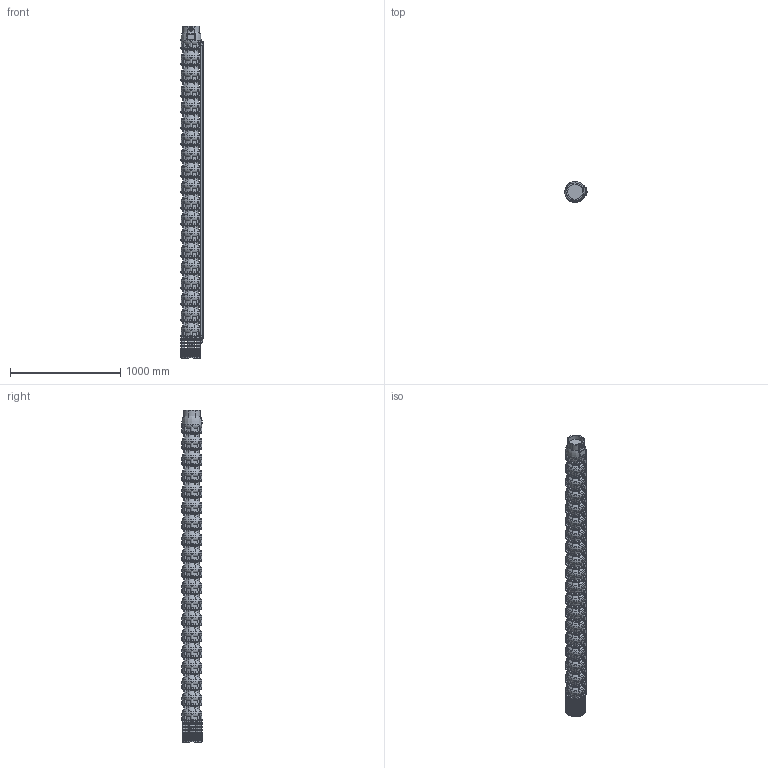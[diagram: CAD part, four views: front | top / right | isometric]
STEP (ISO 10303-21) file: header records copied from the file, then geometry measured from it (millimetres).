
FILE_DESCRIPTION(/* description */ ('Unknown'),/* implementation_level */ '2;1');
FILE_NAME(/* name */ 'VSI134-18_WR_M8-50_DLE',/* time_stamp */ '2023-09-14T14:42:11+02:00',/* author */ ('Unknown'),/* organization */ ('Unknown'),/* preprocessor_version */ 'ST-DEVELOPER v18.102',/* originating_system */ 'Solid Edge',/* authorisation */ 'Unknown');
FILE_SCHEMA (('AUTOMOTIVE_DESIGN {1 0 10303 214 3 1 1}'));
Products named in the file (11): VSI134-18_WR_M8-50_DLE; VSI134_testata; VSI134_diffusore; VSI134_supporto_8×8; VSI134_filtro_A; VSI134_filtro_B; VSI134_terminale_top_copricavo_basso; VSI134_terminale_bottom_copricavo_basso; LOW 134-18; M5X8_UNI7687; VSI134_giunto_8×8
Assembly tree (36 placements, depth 2):
  VSI134-18_WR_M8-50_DLE
    VSI134_testata
    VSI134_diffusore  x18
    VSI134_supporto_8×8
    VSI134_filtro_A
    VSI134_filtro_B
    VSI134_terminale_top_copricavo_basso
    VSI134_terminale_bottom_copricavo_basso
    LOW 134-18
    M5X8_UNI7687  x10
    VSI134_giunto_8×8
Bounding box: 201.57 x 183.52 x 3007 mm (x, y, z)
Volume: 55956954.4 mm3; surface area: 3992588.6 mm2
Topology: 75 solids, 77 shells, 5445 faces, 15385 edges, 10278 vertices
Faces by surface type: plane 3822, torus 828, cylinder 683, cone 69, bspline 31, sphere 12
Full cylindrical faces by diameter (mm): 2.4 x2, 3 x2, 4.2 x16, 5 x10, 5.5 x8, 26 x1, 44 x1, 69 x1, 74 x1, 98 x1, 135.472 x1, 157 x1, 182 x19
Entity records: 85601 total; most frequent: CARTESIAN_POINT 18369, ORIENTED_EDGE 14056, DIRECTION 13502, EDGE_CURVE 7028, VERTEX_POINT 4730, AXIS2_PLACEMENT_3D 4602, LINE 4298, VECTOR 4298
